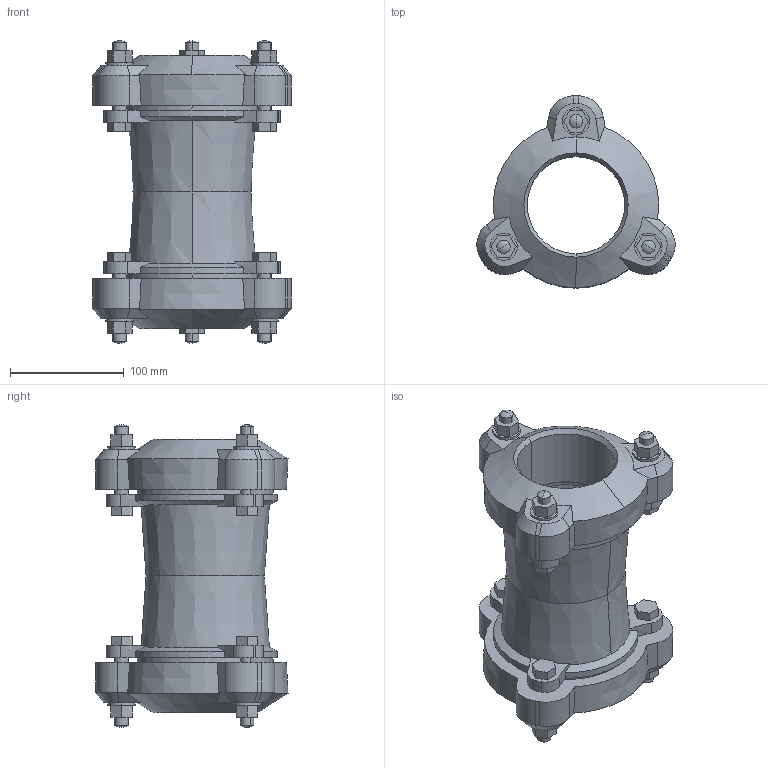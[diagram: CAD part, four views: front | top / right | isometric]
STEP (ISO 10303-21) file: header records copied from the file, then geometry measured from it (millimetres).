
FILE_DESCRIPTION((''),'2;1');
FILE_NAME('BIM_13198_3_ASM','2019-04-09T',('MReader'),(''),'CREO PARAMETRIC BY PTC INC, 2016130','CREO PARAMETRIC BY PTC INC, 2016130','');
FILE_SCHEMA(('CONFIG_CONTROL_DESIGN'));
Length unit declared in the file: millimetre
Products named in the file (3): BIM_12196_2; BIM_13230_4; BIM_13198_3_ASM
Assembly tree (3 placements, depth 2):
  BIM_13198_3_ASM
    BIM_12196_2
    BIM_13230_4  x2
Bounding box: 174.2 x 168.73 x 266 mm (x, y, z)
Volume: 1549299.9 mm3; surface area: 264393.3 mm2
Topology: 3 solids, 3 shells, 290 faces, 740 edges, 466 vertices
Faces by surface type: plane 148, cylinder 78, cone 52, sphere 12
Entity records: 6581 total; most frequent: CARTESIAN_POINT 1275, DIRECTION 1117, ORIENTED_EDGE 1076, EDGE_CURVE 538, AXIS2_PLACEMENT_3D 404, VERTEX_POINT 346, VECTOR 309, LINE 309
